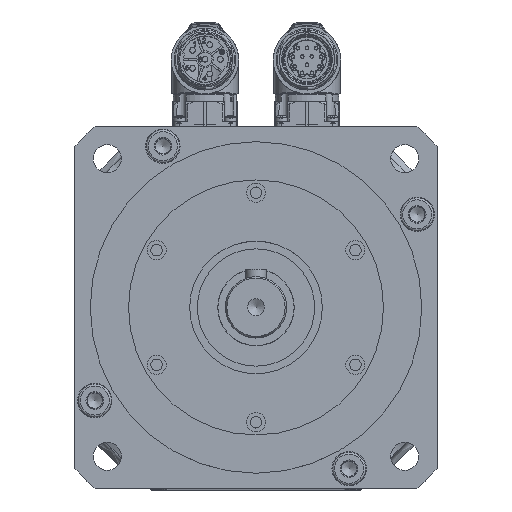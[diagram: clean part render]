
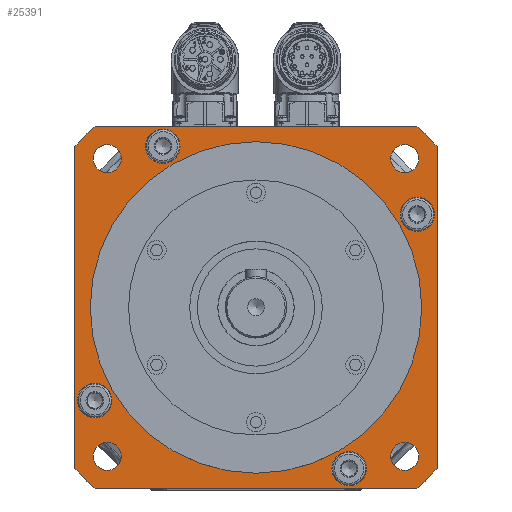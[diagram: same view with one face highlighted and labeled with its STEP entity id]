
A CAD part, top view. The second image highlights one B-rep face of the part: STEP entity #25391.
In plain terms, the highlighted planar face has unit normal (0, 0, 1).
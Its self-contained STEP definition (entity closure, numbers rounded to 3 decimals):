
#2157=FACE_BOUND('',#7469,.T.);
#2158=FACE_BOUND('',#7470,.T.);
#2159=FACE_BOUND('',#7471,.T.);
#2160=FACE_BOUND('',#7472,.T.);
#2161=FACE_BOUND('',#7473,.T.);
#2162=FACE_BOUND('',#7474,.T.);
#2163=FACE_BOUND('',#7475,.T.);
#2164=FACE_BOUND('',#7476,.T.);
#2165=FACE_BOUND('',#7477,.T.);
#2166=FACE_BOUND('',#7478,.T.);
#3195=CIRCLE('',#27311,5.5);
#3199=CIRCLE('',#27317,6.75);
#3201=CIRCLE('',#27321,5.5);
#3205=CIRCLE('',#27327,6.75);
#3207=CIRCLE('',#27331,5.5);
#3211=CIRCLE('',#27337,6.75);
#3215=CIRCLE('',#27344,6.75);
#3217=CIRCLE('',#27348,5.5);
#3226=CIRCLE('',#27363,65.);
#3227=CIRCLE('',#27366,95.);
#3229=CIRCLE('',#27369,95.);
#3232=CIRCLE('',#27373,95.);
#3233=CIRCLE('',#27375,95.);
#7469=EDGE_LOOP('',(#19320));
#7470=EDGE_LOOP('',(#19321));
#7471=EDGE_LOOP('',(#19322));
#7472=EDGE_LOOP('',(#19323));
#7473=EDGE_LOOP('',(#19324));
#7474=EDGE_LOOP('',(#19325));
#7475=EDGE_LOOP('',(#19326));
#7476=EDGE_LOOP('',(#19327));
#7477=EDGE_LOOP('',(#19328));
#7478=EDGE_LOOP('',(#19329,#19330,#19331,#19332,#19333,#19334,#19335,#19336));
#9266=LINE('',#38589,#10497);
#9270=LINE('',#38595,#10501);
#9271=LINE('',#38597,#10502);
#9272=LINE('',#38599,#10503);
#10497=VECTOR('',#31401,126.238);
#10501=VECTOR('',#31409,126.238);
#10502=VECTOR('',#31412,126.238);
#10503=VECTOR('',#31415,126.238);
#11992=VERTEX_POINT('',#38465);
#11996=VERTEX_POINT('',#38475);
#11998=VERTEX_POINT('',#38481);
#12002=VERTEX_POINT('',#38491);
#12004=VERTEX_POINT('',#38497);
#12008=VERTEX_POINT('',#38507);
#12012=VERTEX_POINT('',#38518);
#12014=VERTEX_POINT('',#38524);
#12023=VERTEX_POINT('',#38548);
#12024=VERTEX_POINT('',#38552);
#12026=VERTEX_POINT('',#38555);
#12028=VERTEX_POINT('',#38561);
#12030=VERTEX_POINT('',#38564);
#12033=VERTEX_POINT('',#38571);
#12035=VERTEX_POINT('',#38575);
#12036=VERTEX_POINT('',#38579);
#12038=VERTEX_POINT('',#38582);
#14771=EDGE_CURVE('',#11992,#11992,#3195,.T.);
#14775=EDGE_CURVE('',#11996,#11996,#3199,.T.);
#14777=EDGE_CURVE('',#11998,#11998,#3201,.T.);
#14781=EDGE_CURVE('',#12002,#12002,#3205,.T.);
#14783=EDGE_CURVE('',#12004,#12004,#3207,.T.);
#14787=EDGE_CURVE('',#12008,#12008,#3211,.T.);
#14791=EDGE_CURVE('',#12012,#12012,#3215,.T.);
#14793=EDGE_CURVE('',#12014,#12014,#3217,.T.);
#14802=EDGE_CURVE('',#12023,#12023,#3226,.T.);
#14804=EDGE_CURVE('',#12026,#12024,#3227,.T.);
#14808=EDGE_CURVE('',#12030,#12028,#3229,.T.);
#14814=EDGE_CURVE('',#12033,#12035,#3232,.T.);
#14816=EDGE_CURVE('',#12038,#12036,#3233,.T.);
#14820=EDGE_CURVE('',#12036,#12033,#9266,.T.);
#14824=EDGE_CURVE('',#12028,#12038,#9270,.T.);
#14825=EDGE_CURVE('',#12024,#12030,#9271,.T.);
#14826=EDGE_CURVE('',#12035,#12026,#9272,.T.);
#19320=ORIENTED_EDGE('',*,*,#14771,.T.);
#19321=ORIENTED_EDGE('',*,*,#14775,.T.);
#19322=ORIENTED_EDGE('',*,*,#14777,.T.);
#19323=ORIENTED_EDGE('',*,*,#14781,.T.);
#19324=ORIENTED_EDGE('',*,*,#14783,.T.);
#19325=ORIENTED_EDGE('',*,*,#14787,.T.);
#19326=ORIENTED_EDGE('',*,*,#14791,.T.);
#19327=ORIENTED_EDGE('',*,*,#14793,.T.);
#19328=ORIENTED_EDGE('',*,*,#14802,.T.);
#19329=ORIENTED_EDGE('',*,*,#14816,.T.);
#19330=ORIENTED_EDGE('',*,*,#14820,.T.);
#19331=ORIENTED_EDGE('',*,*,#14814,.T.);
#19332=ORIENTED_EDGE('',*,*,#14826,.T.);
#19333=ORIENTED_EDGE('',*,*,#14804,.T.);
#19334=ORIENTED_EDGE('',*,*,#14825,.T.);
#19335=ORIENTED_EDGE('',*,*,#14808,.T.);
#19336=ORIENTED_EDGE('',*,*,#14824,.T.);
#24590=PLANE('',#27382);
#25391=ADVANCED_FACE('',(#2157,#2158,#2159,#2160,#2161,#2162,#2163,#2164,
#2165,#2166),#24590,.T.);
#27311=AXIS2_PLACEMENT_3D('',#38466,#31258,#31259);
#27317=AXIS2_PLACEMENT_3D('',#38476,#31270,#31271);
#27321=AXIS2_PLACEMENT_3D('',#38482,#31278,#31279);
#27327=AXIS2_PLACEMENT_3D('',#38492,#31290,#31291);
#27331=AXIS2_PLACEMENT_3D('',#38498,#31298,#31299);
#27337=AXIS2_PLACEMENT_3D('',#38508,#31310,#31311);
#27344=AXIS2_PLACEMENT_3D('',#38519,#31324,#31325);
#27348=AXIS2_PLACEMENT_3D('',#38525,#31332,#31333);
#27363=AXIS2_PLACEMENT_3D('',#38549,#31362,#31363);
#27366=AXIS2_PLACEMENT_3D('',#38556,#31369,#31370);
#27369=AXIS2_PLACEMENT_3D('',#38565,#31377,#31378);
#27373=AXIS2_PLACEMENT_3D('',#38577,#31388,#31389);
#27375=AXIS2_PLACEMENT_3D('',#38583,#31393,#31394);
#27382=AXIS2_PLACEMENT_3D('',#38600,#31416,#31417);
#31258=DIRECTION('center_axis',(0.,0.,-1.));
#31259=DIRECTION('ref_axis',(0.,1.,0.));
#31270=DIRECTION('center_axis',(0.,0.,-1.));
#31271=DIRECTION('ref_axis',(0.,-1.,0.));
#31278=DIRECTION('center_axis',(0.,0.,-1.));
#31279=DIRECTION('ref_axis',(1.,0.,0.));
#31290=DIRECTION('center_axis',(0.,0.,-1.));
#31291=DIRECTION('ref_axis',(-1.,0.,0.));
#31298=DIRECTION('center_axis',(0.,0.,-1.));
#31299=DIRECTION('ref_axis',(0.,-1.,0.));
#31310=DIRECTION('center_axis',(0.,0.,-1.));
#31311=DIRECTION('ref_axis',(0.,1.,0.));
#31324=DIRECTION('center_axis',(0.,0.,-1.));
#31325=DIRECTION('ref_axis',(1.,0.,0.));
#31332=DIRECTION('center_axis',(0.,0.,-1.));
#31333=DIRECTION('ref_axis',(-1.,0.,0.));
#31362=DIRECTION('center_axis',(0.,0.,-1.));
#31363=DIRECTION('ref_axis',(-1.,0.,0.));
#31369=DIRECTION('center_axis',(0.,0.,1.));
#31370=DIRECTION('ref_axis',(-1.,0.,0.));
#31377=DIRECTION('center_axis',(0.,0.,1.));
#31378=DIRECTION('ref_axis',(-1.,0.,0.));
#31388=DIRECTION('center_axis',(0.,0.,1.));
#31389=DIRECTION('ref_axis',(-1.,0.,0.));
#31393=DIRECTION('center_axis',(0.,0.,1.));
#31394=DIRECTION('ref_axis',(-1.,0.,0.));
#31401=DIRECTION('',(0.,-1.,0.));
#31409=DIRECTION('',(-1.,0.,0.));
#31412=DIRECTION('',(0.,1.,0.));
#31415=DIRECTION('',(1.,0.,0.));
#31416=DIRECTION('center_axis',(0.,0.,1.));
#31417=DIRECTION('ref_axis',(1.,0.,0.));
#38465=CARTESIAN_POINT('',(58.336,52.836,15.));
#38466=CARTESIAN_POINT('Origin',(58.336,58.336,15.));
#38475=CARTESIAN_POINT('',(36.5,-69.97,15.));
#38476=CARTESIAN_POINT('Origin',(36.5,-63.22,15.));
#38481=CARTESIAN_POINT('',(52.836,-58.336,15.));
#38482=CARTESIAN_POINT('Origin',(58.336,-58.336,15.));
#38491=CARTESIAN_POINT('',(-69.97,-36.5,15.));
#38492=CARTESIAN_POINT('Origin',(-63.22,-36.5,15.));
#38497=CARTESIAN_POINT('',(-58.336,-52.836,15.));
#38498=CARTESIAN_POINT('Origin',(-58.336,-58.336,15.));
#38507=CARTESIAN_POINT('',(-36.5,69.97,15.));
#38508=CARTESIAN_POINT('Origin',(-36.5,63.22,15.));
#38518=CARTESIAN_POINT('',(69.97,36.5,15.));
#38519=CARTESIAN_POINT('Origin',(63.22,36.5,15.));
#38524=CARTESIAN_POINT('',(-52.836,58.336,15.));
#38525=CARTESIAN_POINT('Origin',(-58.336,58.336,15.));
#38548=CARTESIAN_POINT('',(65.,0.,15.));
#38549=CARTESIAN_POINT('Origin',(0.,0.,15.));
#38552=CARTESIAN_POINT('',(71.,-63.119,15.));
#38555=CARTESIAN_POINT('',(63.119,-71.,15.));
#38556=CARTESIAN_POINT('Origin',(0.,0.,15.));
#38561=CARTESIAN_POINT('',(63.119,71.,15.));
#38564=CARTESIAN_POINT('',(71.,63.119,15.));
#38565=CARTESIAN_POINT('Origin',(0.,0.,15.));
#38571=CARTESIAN_POINT('',(-71.,-63.119,15.));
#38575=CARTESIAN_POINT('',(-63.119,-71.,15.));
#38577=CARTESIAN_POINT('Origin',(0.,0.,15.));
#38579=CARTESIAN_POINT('',(-71.,63.119,15.));
#38582=CARTESIAN_POINT('',(-63.119,71.,15.));
#38583=CARTESIAN_POINT('Origin',(0.,0.,15.));
#38589=CARTESIAN_POINT('',(-71.,71.,15.));
#38595=CARTESIAN_POINT('',(71.,71.,15.));
#38597=CARTESIAN_POINT('',(71.,-71.,15.));
#38599=CARTESIAN_POINT('',(-71.,-71.,15.));
#38600=CARTESIAN_POINT('Origin',(0.,0.,15.));
